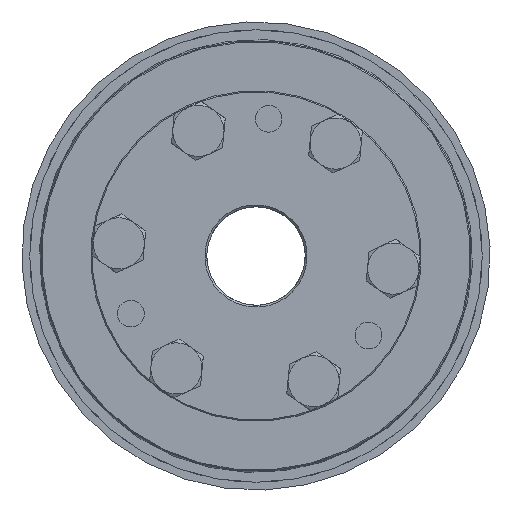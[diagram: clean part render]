
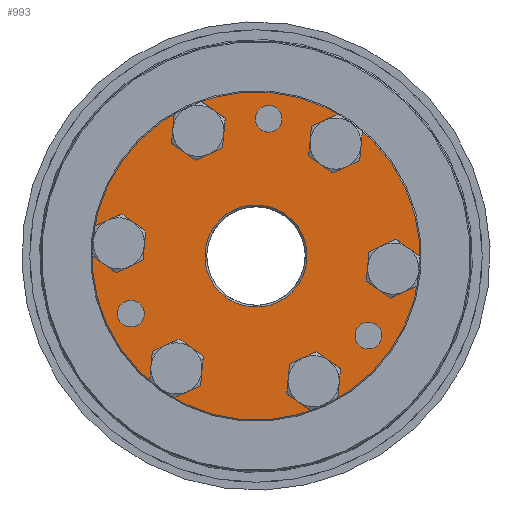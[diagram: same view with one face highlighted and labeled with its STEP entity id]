
A CAD part, left-side view. The second image highlights one B-rep face of the part: STEP entity #993.
In plain terms, the highlighted planar face has unit normal (-1, 0, 0).
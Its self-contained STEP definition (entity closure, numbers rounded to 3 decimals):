
#993 = ADVANCED_FACE( 'NONE', ( #1989, #1990, #1991, #1992, #1993, #1994, #1995, #1996, #1997, #1998, #1999 ), #2000, .F. );
#1989 = FACE_OUTER_BOUND( '', #2994, .T. );
#1990 = FACE_BOUND( '', #2995, .T. );
#1991 = FACE_BOUND( '', #2996, .T. );
#1992 = FACE_BOUND( '', #2997, .T. );
#1993 = FACE_BOUND( '', #2998, .T. );
#1994 = FACE_BOUND( '', #2999, .T. );
#1995 = FACE_BOUND( '', #3000, .T. );
#1996 = FACE_BOUND( '', #3001, .T. );
#1997 = FACE_BOUND( '', #3002, .T. );
#1998 = FACE_BOUND( '', #3003, .T. );
#1999 = FACE_BOUND( '', #3004, .T. );
#2000 = PLANE( '', #3005 );
#2994 = EDGE_LOOP( '', ( #4375 ) );
#2995 = EDGE_LOOP( '', ( #4376 ) );
#2996 = EDGE_LOOP( '', ( #4377 ) );
#2997 = EDGE_LOOP( '', ( #4378 ) );
#2998 = EDGE_LOOP( '', ( #4379 ) );
#2999 = EDGE_LOOP( '', ( #4380 ) );
#3000 = EDGE_LOOP( '', ( #4381 ) );
#3001 = EDGE_LOOP( '', ( #4382 ) );
#3002 = EDGE_LOOP( '', ( #4383 ) );
#3003 = EDGE_LOOP( '', ( #4384 ) );
#3004 = EDGE_LOOP( '', ( #4385 ) );
#3005 = AXIS2_PLACEMENT_3D( '', #4386, #4387, #4388 );
#4375 = ORIENTED_EDGE( '', *, *, #5033, .T. );
#4376 = ORIENTED_EDGE( '', *, *, #5138, .T. );
#4377 = ORIENTED_EDGE( '', *, *, #5061, .F. );
#4378 = ORIENTED_EDGE( '', *, *, #5104, .F. );
#4379 = ORIENTED_EDGE( '', *, *, #5107, .F. );
#4380 = ORIENTED_EDGE( '', *, *, #5201, .F. );
#4381 = ORIENTED_EDGE( '', *, *, #4892, .F. );
#4382 = ORIENTED_EDGE( '', *, *, #5247, .F. );
#4383 = ORIENTED_EDGE( '', *, *, #4945, .F. );
#4384 = ORIENTED_EDGE( '', *, *, #5141, .F. );
#4385 = ORIENTED_EDGE( '', *, *, #5248, .F. );
#4386 = CARTESIAN_POINT( '', ( 0., 12.5, 0. ) );
#4387 = DIRECTION( '', ( 1., 0., 0. ) );
#4388 = DIRECTION( '', ( 0., 1., 0. ) );
#4892 = EDGE_CURVE( 'NONE', #5527, #5527, #5528, .T. );
#4945 = EDGE_CURVE( 'NONE', #5611, #5611, #5612, .T. );
#5033 = EDGE_CURVE( 'NONE', #5754, #5754, #5755, .T. );
#5061 = EDGE_CURVE( 'NONE', #5796, #5796, #5797, .T. );
#5104 = EDGE_CURVE( 'NONE', #5857, #5857, #5858, .T. );
#5107 = EDGE_CURVE( 'NONE', #5862, #5862, #5863, .T. );
#5138 = EDGE_CURVE( 'NONE', #5905, #5905, #5906, .T. );
#5141 = EDGE_CURVE( 'NONE', #5910, #5910, #5911, .T. );
#5201 = EDGE_CURVE( 'NONE', #5992, #5992, #5993, .T. );
#5247 = EDGE_CURVE( 'NONE', #6048, #6048, #6049, .T. );
#5248 = EDGE_CURVE( 'NONE', #6050, #6050, #6051, .T. );
#5527 = VERTEX_POINT( '', #6437 );
#5528 = CIRCLE( '', #6438, 4.25 );
#5611 = VERTEX_POINT( '', #6521 );
#5612 = CIRCLE( '', #6522, 4.25 );
#5754 = VERTEX_POINT( '', #6777 );
#5755 = CIRCLE( '', #6778, 41.7 );
#5796 = VERTEX_POINT( '', #6837 );
#5797 = CIRCLE( '', #6838, 3.4 );
#5857 = VERTEX_POINT( '', #6900 );
#5858 = CIRCLE( '', #6901, 4.25 );
#5862 = VERTEX_POINT( '', #6905 );
#5863 = CIRCLE( '', #6906, 4.25 );
#5905 = VERTEX_POINT( '', #6960 );
#5906 = CIRCLE( '', #6961, 13. );
#5910 = VERTEX_POINT( '', #6965 );
#5911 = CIRCLE( '', #6966, 3.4 );
#5992 = VERTEX_POINT( '', #7224 );
#5993 = CIRCLE( '', #7225, 4.25 );
#6048 = VERTEX_POINT( '', #7293 );
#6049 = CIRCLE( '', #7294, 4.25 );
#6050 = VERTEX_POINT( '', #7295 );
#6051 = CIRCLE( '', #7296, 3.4 );
#6437 = CARTESIAN_POINT( '', ( 0., 0., -30.75 ) );
#6438 = AXIS2_PLACEMENT_3D( '', #7663, #7664, #7665 );
#6521 = CARTESIAN_POINT( '', ( 0., -30.311, 21.75 ) );
#6522 = AXIS2_PLACEMENT_3D( '', #7762, #7763, #7764 );
#6777 = CARTESIAN_POINT( '', ( 0., 0., -41.7 ) );
#6778 = AXIS2_PLACEMENT_3D( '', #7880, #7881, #7882 );
#6837 = CARTESIAN_POINT( '', ( 0., 17.5, -26.911 ) );
#6838 = AXIS2_PLACEMENT_3D( '', #7919, #7920, #7921 );
#6900 = CARTESIAN_POINT( '', ( 0., 0., 39.25 ) );
#6901 = AXIS2_PLACEMENT_3D( '', #8005, #8006, #8007 );
#6905 = CARTESIAN_POINT( '', ( 0., 30.311, 21.75 ) );
#6906 = AXIS2_PLACEMENT_3D( '', #8011, #8012, #8013 );
#6960 = CARTESIAN_POINT( '', ( 0., 0., -13. ) );
#6961 = AXIS2_PLACEMENT_3D( '', #8047, #8048, #8049 );
#6965 = CARTESIAN_POINT( '', ( 0., 17.5, 33.711 ) );
#6966 = AXIS2_PLACEMENT_3D( '', #8053, #8054, #8055 );
#7224 = CARTESIAN_POINT( '', ( 0., 30.311, -13.25 ) );
#7225 = AXIS2_PLACEMENT_3D( '', #8115, #8116, #8117 );
#7293 = CARTESIAN_POINT( '', ( 0., -30.311, -13.25 ) );
#7294 = AXIS2_PLACEMENT_3D( '', #8152, #8153, #8154 );
#7295 = CARTESIAN_POINT( '', ( 0., -35., 3.4 ) );
#7296 = AXIS2_PLACEMENT_3D( '', #8155, #8156, #8157 );
#7663 = CARTESIAN_POINT( '', ( 0., 0., -35. ) );
#7664 = DIRECTION( '', ( -1., 0., 0. ) );
#7665 = DIRECTION( '', ( 0., 0., 1. ) );
#7762 = CARTESIAN_POINT( '', ( 0., -30.311, 17.5 ) );
#7763 = DIRECTION( '', ( -1., 0., 0. ) );
#7764 = DIRECTION( '', ( 0., 0., 1. ) );
#7880 = CARTESIAN_POINT( '', ( 0., 0., 0. ) );
#7881 = DIRECTION( '', ( -1., 0., 0. ) );
#7882 = DIRECTION( '', ( 0., 0., -1. ) );
#7919 = CARTESIAN_POINT( '', ( 0., 17.5, -30.311 ) );
#7920 = DIRECTION( '', ( -1., 0., 0. ) );
#7921 = DIRECTION( '', ( 0., 0., 1. ) );
#8005 = CARTESIAN_POINT( '', ( 0., 0., 35. ) );
#8006 = DIRECTION( '', ( -1., 0., 0. ) );
#8007 = DIRECTION( '', ( 0., 0., 1. ) );
#8011 = CARTESIAN_POINT( '', ( 0., 30.311, 17.5 ) );
#8012 = DIRECTION( '', ( -1., 0., 0. ) );
#8013 = DIRECTION( '', ( 0., 0., 1. ) );
#8047 = CARTESIAN_POINT( '', ( 0., 0., 0. ) );
#8048 = DIRECTION( '', ( 1., 0., 0. ) );
#8049 = DIRECTION( '', ( 0., 0., -1. ) );
#8053 = CARTESIAN_POINT( '', ( 0., 17.5, 30.311 ) );
#8054 = DIRECTION( '', ( -1., 0., 0. ) );
#8055 = DIRECTION( '', ( 0., 0., 1. ) );
#8115 = CARTESIAN_POINT( '', ( 0., 30.311, -17.5 ) );
#8116 = DIRECTION( '', ( -1., 0., 0. ) );
#8117 = DIRECTION( '', ( 0., 0., 1. ) );
#8152 = CARTESIAN_POINT( '', ( 0., -30.311, -17.5 ) );
#8153 = DIRECTION( '', ( -1., 0., 0. ) );
#8154 = DIRECTION( '', ( 0., 0., 1. ) );
#8155 = CARTESIAN_POINT( '', ( 0., -35., 0. ) );
#8156 = DIRECTION( '', ( -1., 0., 0. ) );
#8157 = DIRECTION( '', ( 0., 0., 1. ) );
